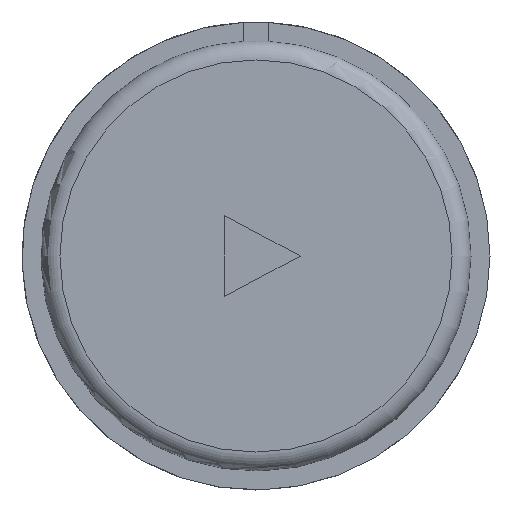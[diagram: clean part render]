
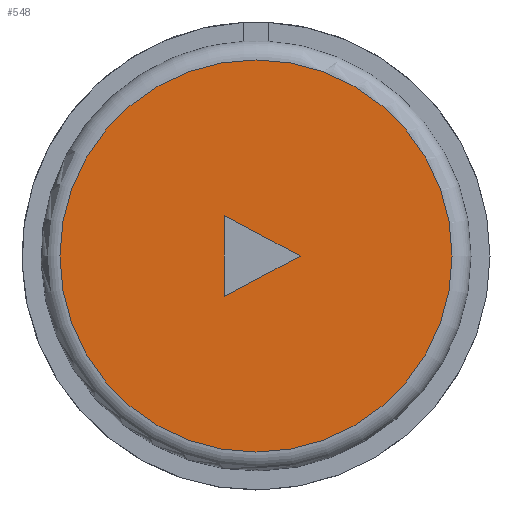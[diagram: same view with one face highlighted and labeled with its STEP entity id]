
A CAD part, front view. The second image highlights one B-rep face of the part: STEP entity #548.
In plain terms, the highlighted planar face has unit normal (0, -1, 0).
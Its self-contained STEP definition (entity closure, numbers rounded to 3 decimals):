
#63 = TOROIDAL_SURFACE('',#64,15.5,1.5);
#64 = AXIS2_PLACEMENT_3D('',#65,#66,#67);
#65 = CARTESIAN_POINT('',(0.,-12.9,-32.));
#66 = DIRECTION('',(0.,-1.,0.));
#67 = DIRECTION('',(1.,0.,0.));
#185 = VERTEX_POINT('',#186);
#186 = CARTESIAN_POINT('',(15.5,-14.4,-32.));
#206 = EDGE_CURVE('',#185,#185,#207,.T.);
#207 = SURFACE_CURVE('',#208,(#213,#220),.PCURVE_S1.);
#208 = CIRCLE('',#209,15.5);
#209 = AXIS2_PLACEMENT_3D('',#210,#211,#212);
#210 = CARTESIAN_POINT('',(0.,-14.4,-32.));
#211 = DIRECTION('',(0.,-1.,0.));
#212 = DIRECTION('',(1.,0.,0.));
#213 = PCURVE('',#63,#214);
#214 = DEFINITIONAL_REPRESENTATION('',(#215),#219);
#215 = LINE('',#216,#217);
#216 = CARTESIAN_POINT('',(0.,1.571));
#217 = VECTOR('',#218,1.);
#218 = DIRECTION('',(1.,0.));
#219 = ( GEOMETRIC_REPRESENTATION_CONTEXT(2) 
PARAMETRIC_REPRESENTATION_CONTEXT() REPRESENTATION_CONTEXT('2D SPACE',''
  ) );
#220 = PCURVE('',#221,#226);
#221 = PLANE('',#222);
#222 = AXIS2_PLACEMENT_3D('',#223,#224,#225);
#223 = CARTESIAN_POINT('',(0.,-14.4,-32.));
#224 = DIRECTION('',(0.,-1.,0.));
#225 = DIRECTION('',(1.,0.,0.));
#226 = DEFINITIONAL_REPRESENTATION('',(#227),#231);
#227 = CIRCLE('',#228,15.5);
#228 = AXIS2_PLACEMENT_2D('',#229,#230);
#229 = CARTESIAN_POINT('',(0.,0.));
#230 = DIRECTION('',(1.,0.));
#231 = ( GEOMETRIC_REPRESENTATION_CONTEXT(2) 
PARAMETRIC_REPRESENTATION_CONTEXT() REPRESENTATION_CONTEXT('2D SPACE',''
  ) );
#548 = ADVANCED_FACE('',(#549,#552),#221,.T.);
#549 = FACE_BOUND('',#550,.T.);
#550 = EDGE_LOOP('',(#551));
#551 = ORIENTED_EDGE('',*,*,#206,.T.);
#552 = FACE_BOUND('',#553,.T.);
#553 = EDGE_LOOP('',(#554,#584,#612));
#554 = ORIENTED_EDGE('',*,*,#555,.T.);
#555 = EDGE_CURVE('',#556,#558,#560,.T.);
#556 = VERTEX_POINT('',#557);
#557 = CARTESIAN_POINT('',(3.5,-14.4,-32.));
#558 = VERTEX_POINT('',#559);
#559 = CARTESIAN_POINT('',(-2.5,-14.4,-35.2));
#560 = SURFACE_CURVE('',#561,(#565,#572),.PCURVE_S1.);
#561 = LINE('',#562,#563);
#562 = CARTESIAN_POINT('',(2.138,-14.4,-32.727));
#563 = VECTOR('',#564,1.);
#564 = DIRECTION('',(-0.882,-0.,-0.471));
#565 = PCURVE('',#221,#566);
#566 = DEFINITIONAL_REPRESENTATION('',(#567),#571);
#567 = LINE('',#568,#569);
#568 = CARTESIAN_POINT('',(2.138,-0.727));
#569 = VECTOR('',#570,1.);
#570 = DIRECTION('',(-0.882,-0.471));
#571 = ( GEOMETRIC_REPRESENTATION_CONTEXT(2) 
PARAMETRIC_REPRESENTATION_CONTEXT() REPRESENTATION_CONTEXT('2D SPACE',''
  ) );
#572 = PCURVE('',#573,#578);
#573 = PLANE('',#574);
#574 = AXIS2_PLACEMENT_3D('',#575,#576,#577);
#575 = CARTESIAN_POINT('',(3.5,-14.9,-32.));
#576 = DIRECTION('',(-0.471,0.,0.882));
#577 = DIRECTION('',(-0.882,0.,-0.471));
#578 = DEFINITIONAL_REPRESENTATION('',(#579),#583);
#579 = LINE('',#580,#581);
#580 = CARTESIAN_POINT('',(1.544,-0.5));
#581 = VECTOR('',#582,1.);
#582 = DIRECTION('',(1.,0.));
#583 = ( GEOMETRIC_REPRESENTATION_CONTEXT(2) 
PARAMETRIC_REPRESENTATION_CONTEXT() REPRESENTATION_CONTEXT('2D SPACE',''
  ) );
#584 = ORIENTED_EDGE('',*,*,#585,.T.);
#585 = EDGE_CURVE('',#558,#586,#588,.T.);
#586 = VERTEX_POINT('',#587);
#587 = CARTESIAN_POINT('',(-2.5,-14.4,-28.8));
#588 = SURFACE_CURVE('',#589,(#593,#600),.PCURVE_S1.);
#589 = LINE('',#590,#591);
#590 = CARTESIAN_POINT('',(-2.5,-14.4,-33.6));
#591 = VECTOR('',#592,1.);
#592 = DIRECTION('',(-0.,0.,1.));
#593 = PCURVE('',#221,#594);
#594 = DEFINITIONAL_REPRESENTATION('',(#595),#599);
#595 = LINE('',#596,#597);
#596 = CARTESIAN_POINT('',(-2.5,-1.6));
#597 = VECTOR('',#598,1.);
#598 = DIRECTION('',(0.,1.));
#599 = ( GEOMETRIC_REPRESENTATION_CONTEXT(2) 
PARAMETRIC_REPRESENTATION_CONTEXT() REPRESENTATION_CONTEXT('2D SPACE',''
  ) );
#600 = PCURVE('',#601,#606);
#601 = PLANE('',#602);
#602 = AXIS2_PLACEMENT_3D('',#603,#604,#605);
#603 = CARTESIAN_POINT('',(-2.5,-14.9,-35.2));
#604 = DIRECTION('',(1.,0.,0.));
#605 = DIRECTION('',(0.,0.,1.));
#606 = DEFINITIONAL_REPRESENTATION('',(#607),#611);
#607 = LINE('',#608,#609);
#608 = CARTESIAN_POINT('',(1.6,-0.5));
#609 = VECTOR('',#610,1.);
#610 = DIRECTION('',(1.,0.));
#611 = ( GEOMETRIC_REPRESENTATION_CONTEXT(2) 
PARAMETRIC_REPRESENTATION_CONTEXT() REPRESENTATION_CONTEXT('2D SPACE',''
  ) );
#612 = ORIENTED_EDGE('',*,*,#613,.T.);
#613 = EDGE_CURVE('',#586,#556,#614,.T.);
#614 = SURFACE_CURVE('',#615,(#619,#626),.PCURVE_S1.);
#615 = LINE('',#616,#617);
#616 = CARTESIAN_POINT('',(-0.862,-14.4,-29.673));
#617 = VECTOR('',#618,1.);
#618 = DIRECTION('',(0.882,0.,-0.471));
#619 = PCURVE('',#221,#620);
#620 = DEFINITIONAL_REPRESENTATION('',(#621),#625);
#621 = LINE('',#622,#623);
#622 = CARTESIAN_POINT('',(-0.862,2.327));
#623 = VECTOR('',#624,1.);
#624 = DIRECTION('',(0.882,-0.471));
#625 = ( GEOMETRIC_REPRESENTATION_CONTEXT(2) 
PARAMETRIC_REPRESENTATION_CONTEXT() REPRESENTATION_CONTEXT('2D SPACE',''
  ) );
#626 = PCURVE('',#627,#632);
#627 = PLANE('',#628);
#628 = AXIS2_PLACEMENT_3D('',#629,#630,#631);
#629 = CARTESIAN_POINT('',(-2.5,-14.9,-28.8));
#630 = DIRECTION('',(-0.471,0.,-0.882));
#631 = DIRECTION('',(0.882,0.,-0.471));
#632 = DEFINITIONAL_REPRESENTATION('',(#633),#637);
#633 = LINE('',#634,#635);
#634 = CARTESIAN_POINT('',(1.856,-0.5));
#635 = VECTOR('',#636,1.);
#636 = DIRECTION('',(1.,0.));
#637 = ( GEOMETRIC_REPRESENTATION_CONTEXT(2) 
PARAMETRIC_REPRESENTATION_CONTEXT() REPRESENTATION_CONTEXT('2D SPACE',''
  ) );
